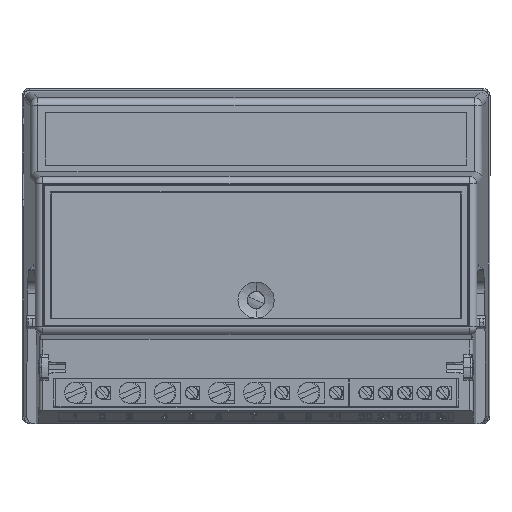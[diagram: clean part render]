
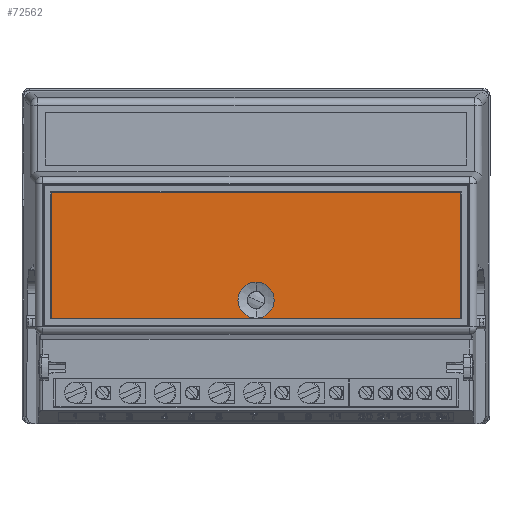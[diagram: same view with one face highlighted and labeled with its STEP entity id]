
A CAD part, top view. The second image highlights one B-rep face of the part: STEP entity #72562.
In plain terms, the highlighted planar face has unit normal (0, 0, 1).
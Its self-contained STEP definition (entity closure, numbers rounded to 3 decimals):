
#451 = ORIENTED_EDGE ( 'NONE', *, *, #45583, .T. ) ;
#9427 = DIRECTION ( 'NONE',  ( 0., -1., 0. ) ) ;
#9578 = FACE_BOUND ( 'NONE', #31616, .T. ) ;
#12346 = DIRECTION ( 'NONE',  ( 1., 0., 0. ) ) ;
#13669 = CARTESIAN_POINT ( 'NONE',  ( -17.282, 36.494, 38.498 ) ) ;
#17351 = CARTESIAN_POINT ( 'NONE',  ( 37.618, 36.553, 38.498 ) ) ;
#18448 = LINE ( 'NONE', #116853, #81062 ) ;
#18741 = VECTOR ( 'NONE', #127984, 1000. ) ;
#19543 = VERTEX_POINT ( 'NONE', #107411 ) ;
#22357 = AXIS2_PLACEMENT_3D ( 'NONE', #97016, #131862, #12346 ) ;
#22539 = LINE ( 'NONE', #129021, #18741 ) ;
#24127 = EDGE_CURVE ( 'NONE', #26316, #65897, #18448, .T. ) ;
#26316 = VERTEX_POINT ( 'NONE', #85740 ) ;
#31616 = EDGE_LOOP ( 'NONE', ( #89187, #84336 ) ) ;
#33360 = VECTOR ( 'NONE', #91819, 1000. ) ;
#36288 = CARTESIAN_POINT ( 'NONE',  ( -18.282, 35.494, 38.498 ) ) ;
#37334 = PLANE ( 'NONE',  #51783 ) ;
#38534 = ORIENTED_EDGE ( 'NONE', *, *, #43325, .T. ) ;
#41251 = EDGE_CURVE ( 'NONE', #72283, #19543, #142490, .T. ) ;
#43325 = EDGE_CURVE ( 'NONE', #65897, #112297, #78962, .T. ) ;
#45033 = EDGE_LOOP ( 'NONE', ( #108572, #451, #136894, #38534 ) ) ;
#45583 = EDGE_CURVE ( 'NONE', #55576, #26316, #52886, .T. ) ;
#51783 = AXIS2_PLACEMENT_3D ( 'NONE', #36288, #61164, #95590 ) ;
#52886 = LINE ( 'NONE', #119031, #86903 ) ;
#53957 = CARTESIAN_POINT ( 'NONE',  ( 92.518, 70.294, 38.498 ) ) ;
#55576 = VERTEX_POINT ( 'NONE', #53957 ) ;
#61164 = DIRECTION ( 'NONE',  ( 0., 0., 1. ) ) ;
#65897 = VERTEX_POINT ( 'NONE', #13669 ) ;
#66467 = CARTESIAN_POINT ( 'NONE',  ( -17.282, 36.494, 38.498 ) ) ;
#67486 = CARTESIAN_POINT ( 'NONE',  ( 37.618, 41.394, 38.498 ) ) ;
#72283 = VERTEX_POINT ( 'NONE', #17351 ) ;
#72562 = ADVANCED_FACE ( 'NONE', ( #89157, #9578 ), #37334, .T. ) ;
#76493 = EDGE_CURVE ( 'NONE', #112297, #55576, #22539, .T. ) ;
#78962 = LINE ( 'NONE', #66467, #33360 ) ;
#81062 = VECTOR ( 'NONE', #9427, 1000. ) ;
#84336 = ORIENTED_EDGE ( 'NONE', *, *, #135477, .T. ) ;
#85740 = CARTESIAN_POINT ( 'NONE',  ( -17.282, 70.294, 38.498 ) ) ;
#86903 = VECTOR ( 'NONE', #153901, 1000. ) ;
#89157 = FACE_OUTER_BOUND ( 'NONE', #45033, .T. ) ;
#89187 = ORIENTED_EDGE ( 'NONE', *, *, #41251, .T. ) ;
#91819 = DIRECTION ( 'NONE',  ( 1., 0., 0. ) ) ;
#95590 = DIRECTION ( 'NONE',  ( 1., 0., 0. ) ) ;
#97016 = CARTESIAN_POINT ( 'NONE',  ( 37.618, 41.394, 38.498 ) ) ;
#103995 = DIRECTION ( 'NONE',  ( 1., 0., 0. ) ) ;
#107411 = CARTESIAN_POINT ( 'NONE',  ( 37.618, 46.236, 38.498 ) ) ;
#108572 = ORIENTED_EDGE ( 'NONE', *, *, #76493, .T. ) ;
#112297 = VERTEX_POINT ( 'NONE', #126072 ) ;
#112766 = AXIS2_PLACEMENT_3D ( 'NONE', #67486, #152063, #103995 ) ;
#116853 = CARTESIAN_POINT ( 'NONE',  ( -17.282, 70.294, 38.498 ) ) ;
#119031 = CARTESIAN_POINT ( 'NONE',  ( 92.518, 70.294, 38.498 ) ) ;
#125714 = CIRCLE ( 'NONE', #112766, 4.841 ) ;
#126072 = CARTESIAN_POINT ( 'NONE',  ( 92.518, 36.494, 38.498 ) ) ;
#127984 = DIRECTION ( 'NONE',  ( 0., 1., 0. ) ) ;
#129021 = CARTESIAN_POINT ( 'NONE',  ( 92.518, 36.494, 38.498 ) ) ;
#131862 = DIRECTION ( 'NONE',  ( 0., 0., -1. ) ) ;
#135477 = EDGE_CURVE ( 'NONE', #19543, #72283, #125714, .T. ) ;
#136894 = ORIENTED_EDGE ( 'NONE', *, *, #24127, .T. ) ;
#142490 = CIRCLE ( 'NONE', #22357, 4.841 ) ;
#152063 = DIRECTION ( 'NONE',  ( 0., 0., -1. ) ) ;
#153901 = DIRECTION ( 'NONE',  ( -1., 0., 0. ) ) ;
